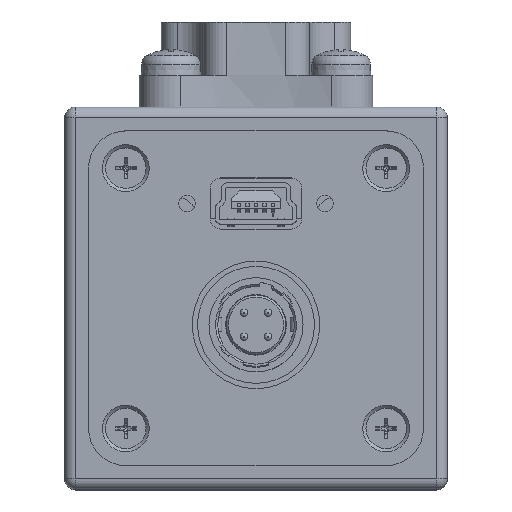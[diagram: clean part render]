
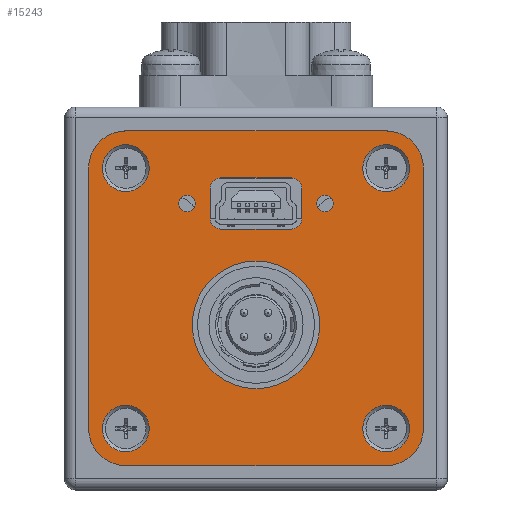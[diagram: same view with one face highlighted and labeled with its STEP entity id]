
A CAD part, top view. The second image highlights one B-rep face of the part: STEP entity #15243.
In plain terms, the highlighted planar face has unit normal (0, 0, 1).
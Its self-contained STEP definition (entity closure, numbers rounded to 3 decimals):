
#404=FACE_BOUND('',#2302,.T.);
#405=FACE_BOUND('',#2303,.T.);
#406=FACE_BOUND('',#2304,.T.);
#407=FACE_BOUND('',#2305,.T.);
#408=FACE_BOUND('',#2306,.T.);
#409=FACE_BOUND('',#2307,.T.);
#410=FACE_BOUND('',#2308,.T.);
#411=FACE_BOUND('',#2309,.T.);
#698=PLANE('',#16812);
#1412=FACE_OUTER_BOUND('',#2301,.T.);
#2301=EDGE_LOOP('',(#12083,#12084,#12085,#12086,#12087,#12088,#12089,#12090));
#2302=EDGE_LOOP('',(#12091));
#2303=EDGE_LOOP('',(#12092));
#2304=EDGE_LOOP('',(#12093));
#2305=EDGE_LOOP('',(#12094));
#2306=EDGE_LOOP('',(#12095));
#2307=EDGE_LOOP('',(#12096));
#2308=EDGE_LOOP('',(#12097,#12098,#12099,#12100,#12101,#12102,#12103,#12104));
#2309=EDGE_LOOP('',(#12105));
#3344=LINE('',#26879,#4589);
#3347=LINE('',#26887,#4592);
#3351=LINE('',#26896,#4596);
#3353=LINE('',#26902,#4598);
#3380=LINE('',#26966,#4625);
#3383=LINE('',#26974,#4628);
#3386=LINE('',#26982,#4631);
#3388=LINE('',#26988,#4633);
#4589=VECTOR('',#20051,10.);
#4592=VECTOR('',#20060,10.);
#4596=VECTOR('',#20070,10.);
#4598=VECTOR('',#20078,10.);
#4625=VECTOR('',#20137,10.);
#4628=VECTOR('',#20146,10.);
#4631=VECTOR('',#20155,10.);
#4633=VECTOR('',#20163,10.);
#5606=CIRCLE('',#16674,2.2);
#5608=CIRCLE('',#16678,2.2);
#5610=CIRCLE('',#16682,2.2);
#5612=CIRCLE('',#16686,2.2);
#5614=CIRCLE('',#16690,0.784);
#5615=CIRCLE('',#16692,0.784);
#5658=CIRCLE('',#16776,1.);
#5659=CIRCLE('',#16779,1.);
#5660=CIRCLE('',#16782,1.);
#5661=CIRCLE('',#16785,1.);
#5665=CIRCLE('',#16798,6.);
#5667=CIRCLE('',#16801,3.5);
#5668=CIRCLE('',#16804,3.5);
#5669=CIRCLE('',#16807,3.5);
#5670=CIRCLE('',#16810,3.5);
#6687=VERTEX_POINT('',#26636);
#6689=VERTEX_POINT('',#26644);
#6691=VERTEX_POINT('',#26652);
#6693=VERTEX_POINT('',#26660);
#6695=VERTEX_POINT('',#26668);
#6696=VERTEX_POINT('',#26672);
#6759=VERTEX_POINT('',#26872);
#6760=VERTEX_POINT('',#26873);
#6761=VERTEX_POINT('',#26878);
#6762=VERTEX_POINT('',#26882);
#6763=VERTEX_POINT('',#26886);
#6764=VERTEX_POINT('',#26890);
#6765=VERTEX_POINT('',#26891);
#6766=VERTEX_POINT('',#26898);
#6783=VERTEX_POINT('',#26952);
#6785=VERTEX_POINT('',#26958);
#6786=VERTEX_POINT('',#26960);
#6787=VERTEX_POINT('',#26964);
#6788=VERTEX_POINT('',#26968);
#6789=VERTEX_POINT('',#26972);
#6790=VERTEX_POINT('',#26976);
#6791=VERTEX_POINT('',#26980);
#6792=VERTEX_POINT('',#26984);
#8492=EDGE_CURVE('',#6687,#6687,#5606,.T.);
#8496=EDGE_CURVE('',#6689,#6689,#5608,.T.);
#8500=EDGE_CURVE('',#6691,#6691,#5610,.T.);
#8504=EDGE_CURVE('',#6693,#6693,#5612,.T.);
#8508=EDGE_CURVE('',#6695,#6695,#5614,.T.);
#8510=EDGE_CURVE('',#6696,#6696,#5615,.T.);
#8606=EDGE_CURVE('',#6759,#6760,#5658,.T.);
#8609=EDGE_CURVE('',#6761,#6760,#3344,.T.);
#8611=EDGE_CURVE('',#6761,#6762,#5659,.T.);
#8613=EDGE_CURVE('',#6763,#6762,#3347,.T.);
#8615=EDGE_CURVE('',#6764,#6765,#5660,.T.);
#8618=EDGE_CURVE('',#6759,#6765,#3351,.T.);
#8619=EDGE_CURVE('',#6763,#6766,#5661,.T.);
#8621=EDGE_CURVE('',#6764,#6766,#3353,.T.);
#8647=EDGE_CURVE('',#6783,#6783,#5665,.T.);
#8651=EDGE_CURVE('',#6785,#6786,#5667,.T.);
#8654=EDGE_CURVE('',#6787,#6785,#3380,.T.);
#8656=EDGE_CURVE('',#6788,#6787,#5668,.T.);
#8658=EDGE_CURVE('',#6789,#6788,#3383,.T.);
#8660=EDGE_CURVE('',#6790,#6789,#5669,.T.);
#8662=EDGE_CURVE('',#6791,#6790,#3386,.T.);
#8664=EDGE_CURVE('',#6792,#6791,#5670,.T.);
#8665=EDGE_CURVE('',#6786,#6792,#3388,.T.);
#12083=ORIENTED_EDGE('',*,*,#8665,.F.);
#12084=ORIENTED_EDGE('',*,*,#8651,.F.);
#12085=ORIENTED_EDGE('',*,*,#8654,.F.);
#12086=ORIENTED_EDGE('',*,*,#8656,.F.);
#12087=ORIENTED_EDGE('',*,*,#8658,.F.);
#12088=ORIENTED_EDGE('',*,*,#8660,.F.);
#12089=ORIENTED_EDGE('',*,*,#8662,.F.);
#12090=ORIENTED_EDGE('',*,*,#8664,.F.);
#12091=ORIENTED_EDGE('',*,*,#8492,.T.);
#12092=ORIENTED_EDGE('',*,*,#8496,.T.);
#12093=ORIENTED_EDGE('',*,*,#8500,.T.);
#12094=ORIENTED_EDGE('',*,*,#8504,.T.);
#12095=ORIENTED_EDGE('',*,*,#8508,.T.);
#12096=ORIENTED_EDGE('',*,*,#8510,.T.);
#12097=ORIENTED_EDGE('',*,*,#8621,.T.);
#12098=ORIENTED_EDGE('',*,*,#8619,.F.);
#12099=ORIENTED_EDGE('',*,*,#8613,.T.);
#12100=ORIENTED_EDGE('',*,*,#8611,.F.);
#12101=ORIENTED_EDGE('',*,*,#8609,.T.);
#12102=ORIENTED_EDGE('',*,*,#8606,.F.);
#12103=ORIENTED_EDGE('',*,*,#8618,.T.);
#12104=ORIENTED_EDGE('',*,*,#8615,.F.);
#12105=ORIENTED_EDGE('',*,*,#8647,.F.);
#15243=ADVANCED_FACE('',(#1412,#404,#405,#406,#407,#408,#409,#410,#411),
#698,.F.);
#16674=AXIS2_PLACEMENT_3D('',#26637,#19779,#19780);
#16678=AXIS2_PLACEMENT_3D('',#26645,#19789,#19790);
#16682=AXIS2_PLACEMENT_3D('',#26653,#19799,#19800);
#16686=AXIS2_PLACEMENT_3D('',#26661,#19809,#19810);
#16690=AXIS2_PLACEMENT_3D('',#26669,#19819,#19820);
#16692=AXIS2_PLACEMENT_3D('',#26673,#19824,#19825);
#16776=AXIS2_PLACEMENT_3D('',#26874,#20045,#20046);
#16779=AXIS2_PLACEMENT_3D('',#26883,#20055,#20056);
#16782=AXIS2_PLACEMENT_3D('',#26892,#20064,#20065);
#16785=AXIS2_PLACEMENT_3D('',#26899,#20073,#20074);
#16798=AXIS2_PLACEMENT_3D('',#26953,#20123,#20124);
#16801=AXIS2_PLACEMENT_3D('',#26961,#20131,#20132);
#16804=AXIS2_PLACEMENT_3D('',#26970,#20141,#20142);
#16807=AXIS2_PLACEMENT_3D('',#26978,#20150,#20151);
#16810=AXIS2_PLACEMENT_3D('',#26986,#20159,#20160);
#16812=AXIS2_PLACEMENT_3D('',#26989,#20164,#20165);
#19779=DIRECTION('center_axis',(0.,0.,
-1.));
#19780=DIRECTION('ref_axis',(1.,0.,0.));
#19789=DIRECTION('center_axis',(0.,0.,
-1.));
#19790=DIRECTION('ref_axis',(1.,0.,0.));
#19799=DIRECTION('center_axis',(0.,0.,
-1.));
#19800=DIRECTION('ref_axis',(1.,0.,0.));
#19809=DIRECTION('center_axis',(0.,0.,
-1.));
#19810=DIRECTION('ref_axis',(1.,0.,0.));
#19819=DIRECTION('center_axis',(0.,0.,
-1.));
#19820=DIRECTION('ref_axis',(1.,0.,0.));
#19824=DIRECTION('center_axis',(0.,0.,
-1.));
#19825=DIRECTION('ref_axis',(1.,0.,0.));
#20045=DIRECTION('center_axis',(0.,0.,
1.));
#20046=DIRECTION('ref_axis',(0.707,-0.707,0.));
#20051=DIRECTION('',(0.,-1.,0.));
#20055=DIRECTION('center_axis',(0.,0.,
1.));
#20056=DIRECTION('ref_axis',(0.707,0.707,0.));
#20060=DIRECTION('',(1.,0.,0.));
#20064=DIRECTION('center_axis',(0.,0.,
1.));
#20065=DIRECTION('ref_axis',(-0.707,-0.707,0.));
#20070=DIRECTION('',(-1.,0.,0.));
#20073=DIRECTION('center_axis',(0.,0.,
1.));
#20074=DIRECTION('ref_axis',(-0.707,0.707,0.));
#20078=DIRECTION('',(0.,1.,0.));
#20123=DIRECTION('center_axis',(0.,0.,
1.));
#20124=DIRECTION('ref_axis',(-1.,0.,0.));
#20131=DIRECTION('center_axis',(0.,0.,
-1.));
#20132=DIRECTION('ref_axis',(0.,-1.,0.));
#20137=DIRECTION('',(0.,1.,0.));
#20141=DIRECTION('center_axis',(0.,0.,
-1.));
#20142=DIRECTION('ref_axis',(1.,0.,0.));
#20146=DIRECTION('',(-1.,0.,0.));
#20150=DIRECTION('center_axis',(0.,0.,
-1.));
#20151=DIRECTION('ref_axis',(0.,1.,0.));
#20155=DIRECTION('',(0.,-1.,0.));
#20159=DIRECTION('center_axis',(0.,0.,
-1.));
#20160=DIRECTION('ref_axis',(-1.,0.,0.));
#20163=DIRECTION('',(1.,0.,0.));
#20164=DIRECTION('center_axis',(0.,0.,
-1.));
#20165=DIRECTION('ref_axis',(-1.,0.,0.));
#26636=CARTESIAN_POINT('',(10.05,-12.25,22.5));
#26637=CARTESIAN_POINT('Origin',(12.25,-12.25,22.5));
#26644=CARTESIAN_POINT('',(-14.45,12.25,22.5));
#26645=CARTESIAN_POINT('Origin',(-12.25,12.25,22.5));
#26652=CARTESIAN_POINT('',(10.05,12.25,22.5));
#26653=CARTESIAN_POINT('Origin',(12.25,12.25,22.5));
#26660=CARTESIAN_POINT('',(-14.45,-12.25,22.5));
#26661=CARTESIAN_POINT('Origin',(-12.25,-12.25,22.5));
#26668=CARTESIAN_POINT('',(-7.284,8.92,22.5));
#26669=CARTESIAN_POINT('Origin',(-6.5,8.92,22.5));
#26672=CARTESIAN_POINT('',(5.717,8.92,22.5));
#26673=CARTESIAN_POINT('Origin',(6.5,8.92,22.5));
#26872=CARTESIAN_POINT('',(3.3,6.52,22.5));
#26873=CARTESIAN_POINT('',(4.3,7.52,22.5));
#26874=CARTESIAN_POINT('Origin',(3.3,7.52,22.5));
#26878=CARTESIAN_POINT('',(4.3,10.32,22.5));
#26879=CARTESIAN_POINT('',(4.3,5.66,22.5));
#26882=CARTESIAN_POINT('',(3.3,11.32,22.5));
#26883=CARTESIAN_POINT('Origin',(3.3,10.32,22.5));
#26886=CARTESIAN_POINT('',(-3.3,11.32,22.5));
#26887=CARTESIAN_POINT('',(-2.15,11.32,22.5));
#26890=CARTESIAN_POINT('',(-4.3,7.52,22.5));
#26891=CARTESIAN_POINT('',(-3.3,6.52,22.5));
#26892=CARTESIAN_POINT('Origin',(-3.3,7.52,22.5));
#26896=CARTESIAN_POINT('',(2.15,6.52,22.5));
#26898=CARTESIAN_POINT('',(-4.3,10.32,22.5));
#26899=CARTESIAN_POINT('Origin',(-3.3,10.32,22.5));
#26902=CARTESIAN_POINT('',(-4.3,3.26,22.5));
#26952=CARTESIAN_POINT('',(6.,-2.5,22.5));
#26953=CARTESIAN_POINT('Origin',(0.,-2.5,22.5));
#26958=CARTESIAN_POINT('',(-15.75,12.25,22.5));
#26960=CARTESIAN_POINT('',(-12.25,15.75,22.5));
#26961=CARTESIAN_POINT('Origin',(-12.25,12.25,22.5));
#26964=CARTESIAN_POINT('',(-15.75,-12.25,22.5));
#26966=CARTESIAN_POINT('',(-15.75,-12.25,22.5));
#26968=CARTESIAN_POINT('',(-12.25,-15.75,22.5));
#26970=CARTESIAN_POINT('Origin',(-12.25,-12.25,22.5));
#26972=CARTESIAN_POINT('',(12.25,-15.75,22.5));
#26974=CARTESIAN_POINT('',(12.25,-15.75,22.5));
#26976=CARTESIAN_POINT('',(15.75,-12.25,22.5));
#26978=CARTESIAN_POINT('Origin',(12.25,-12.25,22.5));
#26980=CARTESIAN_POINT('',(15.75,12.25,22.5));
#26982=CARTESIAN_POINT('',(15.75,12.25,22.5));
#26984=CARTESIAN_POINT('',(12.25,15.75,22.5));
#26986=CARTESIAN_POINT('Origin',(12.25,12.25,22.5));
#26988=CARTESIAN_POINT('',(-12.25,15.75,22.5));
#26989=CARTESIAN_POINT('Origin',(0.,0.,
22.5));
